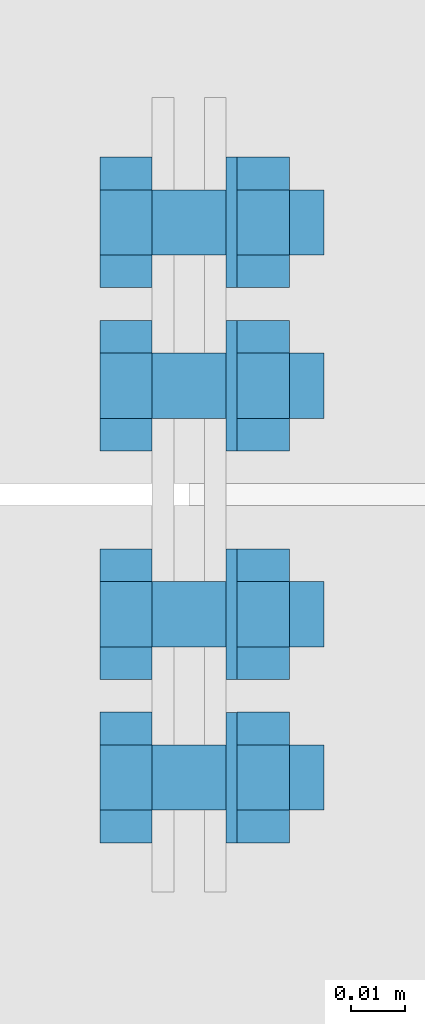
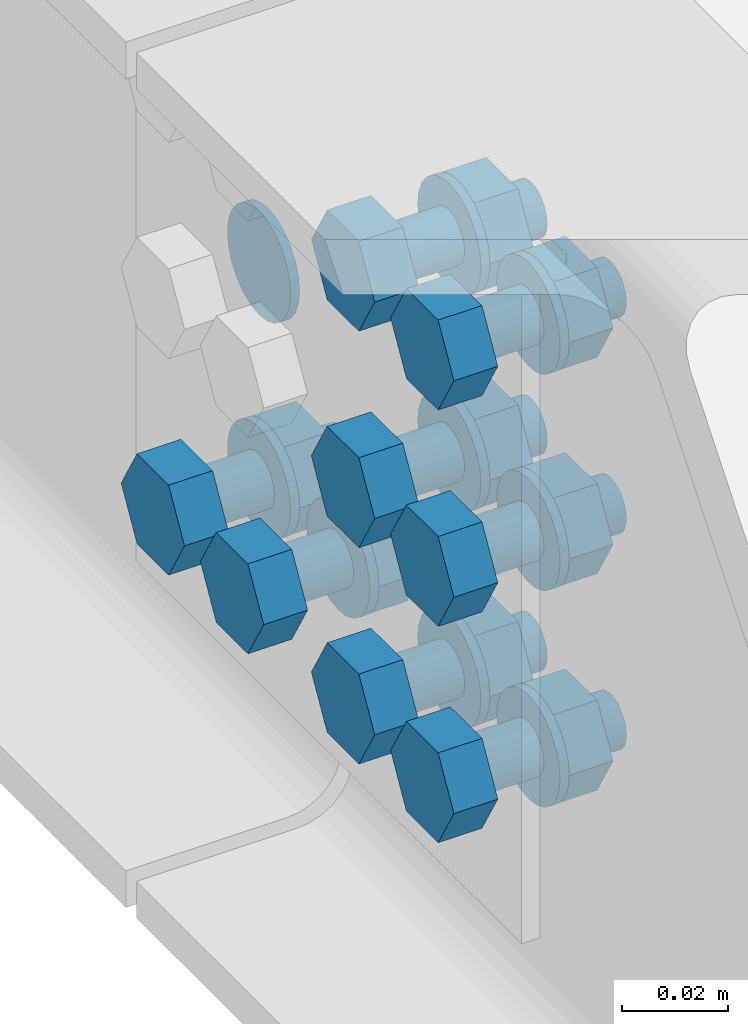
# One storey, part 73 of 84: 33 mechanical fasteners.
"""IFC4 building model written with IfcOpenShell, lengths in metres."""

from ifc_helpers import new_model, si_unit, frame, origin_with_axes, place, context, project, spatial, polyline, outline, extrude, type_object, element, save


model = new_model("IFC4")

# Units and contexts
model_context = context("Model", 3, precision=1e-05, world=origin_with_axes())
ifc_project = project(units=[si_unit("LENGTHUNIT", "METRE"), si_unit("AREAUNIT", "SQUARE_METRE"), si_unit("VOLUMEUNIT", "CUBIC_METRE"), si_unit("MASSUNIT", "GRAM", prefix="KILO"), si_unit("TIMEUNIT", "SECOND"), si_unit("PLANEANGLEUNIT", "RADIAN"), si_unit("SOLIDANGLEUNIT", "STERADIAN"), si_unit("THERMODYNAMICTEMPERATUREUNIT", "DEGREE_CELSIUS")], contexts=[model_context])

# Site, building, storey
placement_1 = place(None, origin_with_axes())
site = spatial("IfcSite", under=ifc_project, at=placement_1, Name="Italia", CompositionType="ELEMENT")
building = spatial("IfcBuilding", under=site, at=placement_1, Name="Tettoia", CompositionType="ELEMENT")
storey_placement = place(None, frame((0.0, 0.0, 4.199999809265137), z_axis=(0.0, 0.0, 1.0), x_axis=(1.0, 0.0, 0.0)))
storey = spatial("IfcBuildingStorey", under=building, at=storey_placement, Name="Storey 1", CompositionType="ELEMENT", Elevation=4.199999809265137)

# Mechanical fasteners
mechanical_fastener_type_1 = type_object("IfcMechanicalFastenerType", Name="Collegamento 0122_0114", PredefinedType="BOLT")
placement_2 = place(placement_1, origin_with_axes())
mechanical_fastener_1_placement = place(placement_2, origin_with_axes())
element("IfcMechanicalFastener", 1, at=mechanical_fastener_1_placement, inside=storey, type_object=mechanical_fastener_type_1, Name="Collegamento 0122_0114", NominalDiameter=0.024, context=model_context, shape_type="SweptSolid", body=[
    extrude(outline(polyline([(0.0, 0.0), (-0.000408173, -0.00310564), (-0.00160599, -0.00600004), (-0.00351334, -0.00848532), (-0.00599861, -0.0103922), (-0.00889397, -0.011591), (-0.0119991, -0.0120001), (-0.0151043, -0.011591), (-0.0179996, -0.0103922), (-0.0204849, -0.00848532), (-0.0223923, -0.00600004), (-0.0235901, -0.00310564), (-0.0239983, 0.0), (-0.0235901, 0.00310564), (-0.0223923, 0.00600004), (-0.0204849, 0.00848532), (-0.0179996, 0.0103922), (-0.0151043, 0.011591), (-0.0119991, 0.0120001), (-0.00889397, 0.011591), (-0.00599861, 0.0103922), (-0.00351334, 0.00848532), (-0.00160599, 0.00600004), (-0.000408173, 0.00310564), (0.0, 0.0)])), frame((0.1088, 16.925, 4.3), z_axis=(-1.0, 0.0, 0.0), x_axis=(0.0, -1.0, 0.0)), (0.0, 0.0, 1.0), 0.002),
])
mechanical_fastener_type_2 = type_object("IfcMechanicalFastenerType", Name="Collegamento 0122_0114", PredefinedType="BOLT")
mechanical_fastener_2_placement = place(placement_2, origin_with_axes())
element("IfcMechanicalFastener", 2, at=mechanical_fastener_2_placement, inside=storey, type_object=mechanical_fastener_type_2, Name="Collegamento 0122_0114", NominalDiameter=0.0119991, context=model_context, shape_type="SweptSolid", body=[
    extrude(outline(polyline([(0.0, 0.0), (0.0119991, 0.0), (0.0179996, -0.0103927), (0.0119991, -0.0207849), (0.0, -0.0207849), (-0.00600052, -0.0103927), (0.0, 0.0)])), frame((0.0932, 16.913, 4.26039), z_axis=(-1.0, 0.0, 0.0), x_axis=(0.0, -1.0, 0.0)), (0.0, 0.0, 1.0), 0.0096),
])
mechanical_fastener_type_3 = type_object("IfcMechanicalFastenerType", Name="Collegamento 0122_0114", PredefinedType="BOLT")
mechanical_fastener_3_placement = place(placement_2, origin_with_axes())
element("IfcMechanicalFastener", 3, at=mechanical_fastener_3_placement, inside=storey, type_object=mechanical_fastener_type_3, Name="Collegamento 0122_0114", NominalDiameter=0.012, context=model_context, shape_type="SweptSolid", body=[
    extrude(outline(polyline([(0.0, 0.0), (-0.000204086, -0.00155306), (-0.000804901, -0.00299978), (-0.00175858, -0.00424242), (-0.00300026, -0.00519609), (-0.00444794, -0.00579548), (-0.00600052, -0.00600004), (-0.0075531, -0.00579548), (-0.00900078, -0.00519609), (-0.0102425, -0.00424242), (-0.0111961, -0.00299978), (-0.011797, -0.00155306), (-0.012001, 0.0), (-0.011797, 0.00155306), (-0.0111961, 0.00299978), (-0.0102425, 0.00424242), (-0.00900078, 0.00519609), (-0.0075531, 0.00579548), (-0.00600052, 0.00600004), (-0.00444794, 0.00579548), (-0.00300026, 0.00519609), (-0.00175858, 0.00424242), (-0.000804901, 0.00299978), (-0.000204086, 0.00155306), (0.0, 0.0)])), frame((0.1248, 16.901, 4.25), z_axis=(-1.0, 0.0, 0.0), x_axis=(0.0, -1.0, 0.0)), (0.0, 0.0, 1.0), 0.0316),
])
mechanical_fastener_type_4 = type_object("IfcMechanicalFastenerType", Name="Collegamento 0122_0114", PredefinedType="BOLT")
mechanical_fastener_4_placement = place(placement_2, origin_with_axes())
element("IfcMechanicalFastener", 4, at=mechanical_fastener_4_placement, inside=storey, type_object=mechanical_fastener_type_4, Name="Collegamento 0122_0114", NominalDiameter=0.0119991, context=model_context, shape_type="SweptSolid", body=[
    extrude(outline(polyline([(0.0, 0.0), (0.0119991, 0.0), (0.0179996, -0.0103927), (0.0119991, -0.0207849), (0.0, -0.0207849), (-0.00600052, -0.0103927), (0.0, 0.0)])), frame((0.1184, 16.913, 4.26039), z_axis=(-1.0, 0.0, 0.0), x_axis=(0.0, -1.0, 0.0)), (0.0, 0.0, 1.0), 0.00960001),
])
mechanical_fastener_type_5 = type_object("IfcMechanicalFastenerType", Name="Collegamento 0122_0114", PredefinedType="BOLT")
mechanical_fastener_5_placement = place(placement_2, origin_with_axes())
element("IfcMechanicalFastener", 5, at=mechanical_fastener_5_placement, inside=storey, type_object=mechanical_fastener_type_5, Name="Collegamento 0122_0114", NominalDiameter=0.024, context=model_context, shape_type="SweptSolid", body=[
    extrude(outline(polyline([(0.0, 0.0), (-0.000408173, -0.00310564), (-0.00160599, -0.00600004), (-0.00351334, -0.00848532), (-0.00599861, -0.0103922), (-0.00889397, -0.011591), (-0.0119991, -0.0120001), (-0.0151043, -0.011591), (-0.0179996, -0.0103922), (-0.0204849, -0.00848532), (-0.0223923, -0.00600004), (-0.0235901, -0.00310564), (-0.0239983, 0.0), (-0.0235901, 0.00310564), (-0.0223923, 0.00600004), (-0.0204849, 0.00848532), (-0.0179996, 0.0103922), (-0.0151043, 0.011591), (-0.0119991, 0.0120001), (-0.00889397, 0.011591), (-0.00599861, 0.0103922), (-0.00351334, 0.00848532), (-0.00160599, 0.00600004), (-0.000408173, 0.00310564), (0.0, 0.0)])), frame((0.1088, 16.895, 4.25), z_axis=(-1.0, 0.0, 0.0), x_axis=(0.0, -1.0, 0.0)), (0.0, 0.0, 1.0), 0.002),
])
mechanical_fastener_type_6 = type_object("IfcMechanicalFastenerType", Name="Collegamento 0122_0114", PredefinedType="BOLT")
mechanical_fastener_6_placement = place(placement_2, origin_with_axes())
element("IfcMechanicalFastener", 6, at=mechanical_fastener_6_placement, inside=storey, type_object=mechanical_fastener_type_6, Name="Collegamento 0122_0114", NominalDiameter=0.0119992, context=model_context, shape_type="SweptSolid", body=[
    extrude(outline(polyline([(0.0, 0.0), (0.012001, 0.0), (0.0179996, -0.0103927), (0.012001, -0.0207849), (0.0, -0.0207849), (-0.00599861, -0.0103927), (0.0, 0.0)])), frame((0.0932, 16.943, 4.26039), z_axis=(-1.0, 0.0, 0.0), x_axis=(0.0, -1.0, 0.0)), (0.0, 0.0, 1.0), 0.0096),
])
mechanical_fastener_type_7 = type_object("IfcMechanicalFastenerType", Name="Collegamento 0122_0114", PredefinedType="BOLT")
mechanical_fastener_7_placement = place(placement_2, origin_with_axes())
element("IfcMechanicalFastener", 7, at=mechanical_fastener_7_placement, inside=storey, type_object=mechanical_fastener_type_7, Name="Collegamento 0122_0114", NominalDiameter=0.012, context=model_context, shape_type="SweptSolid", body=[
    extrude(outline(polyline([(0.0, 0.0), (-0.000204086, -0.00155306), (-0.000804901, -0.00299978), (-0.00175858, -0.00424242), (-0.00300026, -0.00519609), (-0.00444794, -0.00579548), (-0.00600052, -0.00600004), (-0.0075531, -0.00579548), (-0.00900078, -0.00519609), (-0.0102425, -0.00424242), (-0.0111961, -0.00299978), (-0.011797, -0.00155306), (-0.012001, 0.0), (-0.011797, 0.00155306), (-0.0111961, 0.00299978), (-0.0102425, 0.00424242), (-0.00900078, 0.00519609), (-0.0075531, 0.00579548), (-0.00600052, 0.00600004), (-0.00444794, 0.00579548), (-0.00300026, 0.00519609), (-0.00175858, 0.00424242), (-0.000804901, 0.00299978), (-0.000204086, 0.00155306), (0.0, 0.0)])), frame((0.1248, 16.931, 4.25), z_axis=(-1.0, 0.0, 0.0), x_axis=(0.0, -1.0, 0.0)), (0.0, 0.0, 1.0), 0.0316),
])
mechanical_fastener_type_8 = type_object("IfcMechanicalFastenerType", Name="Collegamento 0122_0114", PredefinedType="BOLT")
mechanical_fastener_8_placement = place(placement_2, origin_with_axes())
element("IfcMechanicalFastener", 8, at=mechanical_fastener_8_placement, inside=storey, type_object=mechanical_fastener_type_8, Name="Collegamento 0122_0114", NominalDiameter=0.0119992, context=model_context, shape_type="SweptSolid", body=[
    extrude(outline(polyline([(0.0, 0.0), (0.012001, 0.0), (0.0179996, -0.0103927), (0.012001, -0.0207849), (0.0, -0.0207849), (-0.00599861, -0.0103927), (0.0, 0.0)])), frame((0.1184, 16.943, 4.26039), z_axis=(-1.0, 0.0, 0.0), x_axis=(0.0, -1.0, 0.0)), (0.0, 0.0, 1.0), 0.00960001),
])
mechanical_fastener_type_9 = type_object("IfcMechanicalFastenerType", Name="Collegamento 0122_0114", PredefinedType="BOLT")
mechanical_fastener_9_placement = place(placement_2, origin_with_axes())
element("IfcMechanicalFastener", 9, at=mechanical_fastener_9_placement, inside=storey, type_object=mechanical_fastener_type_9, Name="Collegamento 0122_0114", NominalDiameter=0.024, context=model_context, shape_type="SweptSolid", body=[
    extrude(outline(polyline([(0.0, 0.0), (-0.000408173, -0.00310564), (-0.00160599, -0.00600004), (-0.00351334, -0.00848532), (-0.00599861, -0.0103922), (-0.00889397, -0.011591), (-0.0119991, -0.0120001), (-0.0151043, -0.011591), (-0.0179996, -0.0103922), (-0.0204849, -0.00848532), (-0.0223923, -0.00600004), (-0.0235901, -0.00310564), (-0.0239983, 0.0), (-0.0235901, 0.00310564), (-0.0223923, 0.00600004), (-0.0204849, 0.00848532), (-0.0179996, 0.0103922), (-0.0151043, 0.011591), (-0.0119991, 0.0120001), (-0.00889397, 0.011591), (-0.00599861, 0.0103922), (-0.00351334, 0.00848532), (-0.00160599, 0.00600004), (-0.000408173, 0.00310564), (0.0, 0.0)])), frame((0.1088, 16.925, 4.25), z_axis=(-1.0, 0.0, 0.0), x_axis=(0.0, -1.0, 0.0)), (0.0, 0.0, 1.0), 0.002),
])
mechanical_fastener_type_10 = type_object("IfcMechanicalFastenerType", Name="Collegamento 0122_0114", PredefinedType="BOLT")
mechanical_fastener_10_placement = place(placement_2, origin_with_axes())
element("IfcMechanicalFastener", 10, at=mechanical_fastener_10_placement, inside=storey, type_object=mechanical_fastener_type_10, Name="Collegamento 0122_0114", NominalDiameter=0.0119991, context=model_context, shape_type="SweptSolid", body=[
    extrude(outline(polyline([(0.0, 0.0), (0.0119991, 0.0), (0.0179996, -0.0103922), (0.0119991, -0.0207849), (0.0, -0.0207849), (-0.00600052, -0.0103922), (0.0, 0.0)])), frame((0.0932, 16.871, 4.36039), z_axis=(-1.0, 0.0, 0.0), x_axis=(0.0, -1.0, 0.0)), (0.0, 0.0, 1.0), 0.0096),
])
mechanical_fastener_type_11 = type_object("IfcMechanicalFastenerType", Name="Collegamento 0122_0114", PredefinedType="BOLT")
mechanical_fastener_11_placement = place(placement_2, origin_with_axes())
element("IfcMechanicalFastener", 11, at=mechanical_fastener_11_placement, inside=storey, type_object=mechanical_fastener_type_11, Name="Collegamento 0122_0114", NominalDiameter=0.012, context=model_context, shape_type="SweptSolid", body=[
    extrude(outline(polyline([(0.0, 0.0), (-0.000204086, -0.00155306), (-0.000804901, -0.00299978), (-0.00175858, -0.00424242), (-0.00300026, -0.00519609), (-0.00444794, -0.00579548), (-0.00600052, -0.00600004), (-0.0075531, -0.00579548), (-0.00900078, -0.00519609), (-0.0102425, -0.00424242), (-0.0111961, -0.00299978), (-0.011797, -0.00155306), (-0.012001, 0.0), (-0.011797, 0.00155306), (-0.0111961, 0.00299978), (-0.0102425, 0.00424242), (-0.00900078, 0.00519609), (-0.0075531, 0.00579548), (-0.00600052, 0.00600004), (-0.00444794, 0.00579548), (-0.00300026, 0.00519609), (-0.00175858, 0.00424242), (-0.000804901, 0.00299978), (-0.000204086, 0.00155306), (0.0, 0.0)])), frame((0.1248, 16.859, 4.35), z_axis=(-1.0, 0.0, 0.0), x_axis=(0.0, -1.0, 0.0)), (0.0, 0.0, 1.0), 0.0316),
])
mechanical_fastener_type_12 = type_object("IfcMechanicalFastenerType", Name="Collegamento 0122_0114", PredefinedType="BOLT")
mechanical_fastener_12_placement = place(placement_2, origin_with_axes())
element("IfcMechanicalFastener", 12, at=mechanical_fastener_12_placement, inside=storey, type_object=mechanical_fastener_type_12, Name="Collegamento 0122_0114", NominalDiameter=0.0119991, context=model_context, shape_type="SweptSolid", body=[
    extrude(outline(polyline([(0.0, 0.0), (0.0119991, 0.0), (0.0179996, -0.0103922), (0.0119991, -0.0207849), (0.0, -0.0207849), (-0.00600052, -0.0103922), (0.0, 0.0)])), frame((0.1184, 16.871, 4.36039), z_axis=(-1.0, 0.0, 0.0), x_axis=(0.0, -1.0, 0.0)), (0.0, 0.0, 1.0), 0.00960001),
])
mechanical_fastener_type_13 = type_object("IfcMechanicalFastenerType", Name="Collegamento 0122_0114", PredefinedType="BOLT")
mechanical_fastener_13_placement = place(placement_2, origin_with_axes())
element("IfcMechanicalFastener", 13, at=mechanical_fastener_13_placement, inside=storey, type_object=mechanical_fastener_type_13, Name="Collegamento 0122_0114", NominalDiameter=0.024, context=model_context, shape_type="SweptSolid", body=[
    extrude(outline(polyline([(0.0, 0.0), (-0.000408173, -0.00310564), (-0.00160599, -0.00600004), (-0.00351334, -0.00848532), (-0.00599861, -0.0103922), (-0.00889397, -0.011591), (-0.0119991, -0.0120001), (-0.0151043, -0.011591), (-0.0179996, -0.0103922), (-0.0204849, -0.00848532), (-0.0223923, -0.00600004), (-0.0235901, -0.00310564), (-0.0239983, 0.0), (-0.0235901, 0.00310564), (-0.0223923, 0.00600004), (-0.0204849, 0.00848532), (-0.0179996, 0.0103922), (-0.0151043, 0.011591), (-0.0119991, 0.0120001), (-0.00889397, 0.011591), (-0.00599861, 0.0103922), (-0.00351334, 0.00848532), (-0.00160599, 0.00600004), (-0.000408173, 0.00310564), (0.0, 0.0)])), frame((0.1088, 16.853, 4.35), z_axis=(-1.0, 0.0, 0.0), x_axis=(0.0, -1.0, 0.0)), (0.0, 0.0, 1.0), 0.002),
])
mechanical_fastener_type_14 = type_object("IfcMechanicalFastenerType", Name="Collegamento 0122_0114", PredefinedType="BOLT")
mechanical_fastener_14_placement = place(placement_2, origin_with_axes())
element("IfcMechanicalFastener", 14, at=mechanical_fastener_14_placement, inside=storey, type_object=mechanical_fastener_type_14, Name="Collegamento 0122_0114", NominalDiameter=0.0119991, context=model_context, shape_type="SweptSolid", body=[
    extrude(outline(polyline([(0.0, 0.0), (0.0119991, 0.0), (0.0179996, -0.0103922), (0.0119991, -0.0207849), (0.0, -0.0207849), (-0.00600052, -0.0103922), (0.0, 0.0)])), frame((0.0932, 16.841, 4.36039), z_axis=(-1.0, 0.0, 0.0), x_axis=(0.0, -1.0, 0.0)), (0.0, 0.0, 1.0), 0.0096),
])
mechanical_fastener_type_15 = type_object("IfcMechanicalFastenerType", Name="Collegamento 0122_0114", PredefinedType="BOLT")
mechanical_fastener_15_placement = place(placement_2, origin_with_axes())
element("IfcMechanicalFastener", 15, at=mechanical_fastener_15_placement, inside=storey, type_object=mechanical_fastener_type_15, Name="Collegamento 0122_0114", NominalDiameter=0.012, context=model_context, shape_type="SweptSolid", body=[
    extrude(outline(polyline([(0.0, 0.0), (-0.000204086, -0.00155306), (-0.000804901, -0.00299978), (-0.00175858, -0.00424242), (-0.00300026, -0.00519609), (-0.00444794, -0.00579548), (-0.00600052, -0.00600004), (-0.0075531, -0.00579548), (-0.00900078, -0.00519609), (-0.0102425, -0.00424242), (-0.0111961, -0.00299978), (-0.011797, -0.00155306), (-0.012001, 0.0), (-0.011797, 0.00155306), (-0.0111961, 0.00299978), (-0.0102425, 0.00424242), (-0.00900078, 0.00519609), (-0.0075531, 0.00579548), (-0.00600052, 0.00600004), (-0.00444794, 0.00579548), (-0.00300026, 0.00519609), (-0.00175858, 0.00424242), (-0.000804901, 0.00299978), (-0.000204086, 0.00155306), (0.0, 0.0)])), frame((0.1248, 16.829, 4.35), z_axis=(-1.0, 0.0, 0.0), x_axis=(0.0, -1.0, 0.0)), (0.0, 0.0, 1.0), 0.0316),
])
mechanical_fastener_type_16 = type_object("IfcMechanicalFastenerType", Name="Collegamento 0122_0114", PredefinedType="BOLT")
mechanical_fastener_16_placement = place(placement_2, origin_with_axes())
element("IfcMechanicalFastener", 16, at=mechanical_fastener_16_placement, inside=storey, type_object=mechanical_fastener_type_16, Name="Collegamento 0122_0114", NominalDiameter=0.0119991, context=model_context, shape_type="SweptSolid", body=[
    extrude(outline(polyline([(0.0, 0.0), (0.0119991, 0.0), (0.0179996, -0.0103922), (0.0119991, -0.0207849), (0.0, -0.0207849), (-0.00600052, -0.0103922), (0.0, 0.0)])), frame((0.1184, 16.841, 4.36039), z_axis=(-1.0, 0.0, 0.0), x_axis=(0.0, -1.0, 0.0)), (0.0, 0.0, 1.0), 0.00960001),
])
mechanical_fastener_type_17 = type_object("IfcMechanicalFastenerType", Name="Collegamento 0122_0114", PredefinedType="BOLT")
mechanical_fastener_17_placement = place(placement_2, origin_with_axes())
element("IfcMechanicalFastener", 17, at=mechanical_fastener_17_placement, inside=storey, type_object=mechanical_fastener_type_17, Name="Collegamento 0122_0114", NominalDiameter=0.024, context=model_context, shape_type="SweptSolid", body=[
    extrude(outline(polyline([(0.0, 0.0), (-0.000408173, -0.00310564), (-0.00160599, -0.00600004), (-0.00351334, -0.00848532), (-0.00599861, -0.0103922), (-0.00889397, -0.011591), (-0.0119991, -0.0120001), (-0.0151043, -0.011591), (-0.0179996, -0.0103922), (-0.0204849, -0.00848532), (-0.0223923, -0.00600004), (-0.0235901, -0.00310564), (-0.0239983, 0.0), (-0.0235901, 0.00310564), (-0.0223923, 0.00600004), (-0.0204849, 0.00848532), (-0.0179996, 0.0103922), (-0.0151043, 0.011591), (-0.0119991, 0.0120001), (-0.00889397, 0.011591), (-0.00599861, 0.0103922), (-0.00351334, 0.00848532), (-0.00160599, 0.00600004), (-0.000408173, 0.00310564), (0.0, 0.0)])), frame((0.1088, 16.823, 4.35), z_axis=(-1.0, 0.0, 0.0), x_axis=(0.0, -1.0, 0.0)), (0.0, 0.0, 1.0), 0.002),
])
mechanical_fastener_type_18 = type_object("IfcMechanicalFastenerType", Name="Collegamento 0122_0114", PredefinedType="BOLT")
mechanical_fastener_18_placement = place(placement_2, origin_with_axes())
element("IfcMechanicalFastener", 18, at=mechanical_fastener_18_placement, inside=storey, type_object=mechanical_fastener_type_18, Name="Collegamento 0122_0114", NominalDiameter=0.0119991, context=model_context, shape_type="SweptSolid", body=[
    extrude(outline(polyline([(0.0, 0.0), (0.0119991, 0.0), (0.0179996, -0.0103922), (0.0119991, -0.0207844), (0.0, -0.0207844), (-0.00600052, -0.0103922), (0.0, 0.0)])), frame((0.0932, 16.871, 4.31039), z_axis=(-1.0, 0.0, 0.0), x_axis=(0.0, -1.0, 0.0)), (0.0, 0.0, 1.0), 0.0096),
])
mechanical_fastener_type_19 = type_object("IfcMechanicalFastenerType", Name="Collegamento 0122_0114", PredefinedType="BOLT")
mechanical_fastener_19_placement = place(placement_2, origin_with_axes())
element("IfcMechanicalFastener", 19, at=mechanical_fastener_19_placement, inside=storey, type_object=mechanical_fastener_type_19, Name="Collegamento 0122_0114", NominalDiameter=0.012, context=model_context, shape_type="SweptSolid", body=[
    extrude(outline(polyline([(0.0, 0.0), (-0.000204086, -0.00155306), (-0.000804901, -0.00299978), (-0.00175858, -0.00424242), (-0.00300026, -0.00519609), (-0.00444794, -0.00579548), (-0.00600052, -0.00600004), (-0.0075531, -0.00579548), (-0.00900078, -0.00519609), (-0.0102425, -0.00424242), (-0.0111961, -0.00299978), (-0.011797, -0.00155306), (-0.012001, 0.0), (-0.011797, 0.00155306), (-0.0111961, 0.00299978), (-0.0102425, 0.00424242), (-0.00900078, 0.00519609), (-0.0075531, 0.00579548), (-0.00600052, 0.00600004), (-0.00444794, 0.00579548), (-0.00300026, 0.00519609), (-0.00175858, 0.00424242), (-0.000804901, 0.00299978), (-0.000204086, 0.00155306), (0.0, 0.0)])), frame((0.1248, 16.859, 4.3), z_axis=(-1.0, 0.0, 0.0), x_axis=(0.0, -1.0, 0.0)), (0.0, 0.0, 1.0), 0.0316),
])
mechanical_fastener_type_20 = type_object("IfcMechanicalFastenerType", Name="Collegamento 0122_0114", PredefinedType="BOLT")
mechanical_fastener_20_placement = place(placement_2, origin_with_axes())
element("IfcMechanicalFastener", 20, at=mechanical_fastener_20_placement, inside=storey, type_object=mechanical_fastener_type_20, Name="Collegamento 0122_0114", NominalDiameter=0.0119991, context=model_context, shape_type="SweptSolid", body=[
    extrude(outline(polyline([(0.0, 0.0), (0.0119991, 0.0), (0.0179996, -0.0103922), (0.0119991, -0.0207844), (0.0, -0.0207844), (-0.00600052, -0.0103922), (0.0, 0.0)])), frame((0.1184, 16.871, 4.31039), z_axis=(-1.0, 0.0, 0.0), x_axis=(0.0, -1.0, 0.0)), (0.0, 0.0, 1.0), 0.00960001),
])
mechanical_fastener_type_21 = type_object("IfcMechanicalFastenerType", Name="Collegamento 0122_0114", PredefinedType="BOLT")
mechanical_fastener_21_placement = place(placement_2, origin_with_axes())
element("IfcMechanicalFastener", 21, at=mechanical_fastener_21_placement, inside=storey, type_object=mechanical_fastener_type_21, Name="Collegamento 0122_0114", NominalDiameter=0.024, context=model_context, shape_type="SweptSolid", body=[
    extrude(outline(polyline([(0.0, 0.0), (-0.000408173, -0.00310564), (-0.00160599, -0.00600004), (-0.00351334, -0.00848532), (-0.00599861, -0.0103922), (-0.00889397, -0.011591), (-0.0119991, -0.0120001), (-0.0151043, -0.011591), (-0.0179996, -0.0103922), (-0.0204849, -0.00848532), (-0.0223923, -0.00600004), (-0.0235901, -0.00310564), (-0.0239983, 0.0), (-0.0235901, 0.00310564), (-0.0223923, 0.00600004), (-0.0204849, 0.00848532), (-0.0179996, 0.0103922), (-0.0151043, 0.011591), (-0.0119991, 0.0120001), (-0.00889397, 0.011591), (-0.00599861, 0.0103922), (-0.00351334, 0.00848532), (-0.00160599, 0.00600004), (-0.000408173, 0.00310564), (0.0, 0.0)])), frame((0.1088, 16.853, 4.3), z_axis=(-1.0, 0.0, 0.0), x_axis=(0.0, -1.0, 0.0)), (0.0, 0.0, 1.0), 0.002),
])
mechanical_fastener_type_22 = type_object("IfcMechanicalFastenerType", Name="Collegamento 0122_0114", PredefinedType="BOLT")
mechanical_fastener_22_placement = place(placement_2, origin_with_axes())
element("IfcMechanicalFastener", 22, at=mechanical_fastener_22_placement, inside=storey, type_object=mechanical_fastener_type_22, Name="Collegamento 0122_0114", NominalDiameter=0.0119991, context=model_context, shape_type="SweptSolid", body=[
    extrude(outline(polyline([(0.0, 0.0), (0.0119991, 0.0), (0.0179996, -0.0103922), (0.0119991, -0.0207844), (0.0, -0.0207844), (-0.00600052, -0.0103922), (0.0, 0.0)])), frame((0.0932, 16.841, 4.31039), z_axis=(-1.0, 0.0, 0.0), x_axis=(0.0, -1.0, 0.0)), (0.0, 0.0, 1.0), 0.0096),
])
mechanical_fastener_type_23 = type_object("IfcMechanicalFastenerType", Name="Collegamento 0122_0114", PredefinedType="BOLT")
mechanical_fastener_23_placement = place(placement_2, origin_with_axes())
element("IfcMechanicalFastener", 23, at=mechanical_fastener_23_placement, inside=storey, type_object=mechanical_fastener_type_23, Name="Collegamento 0122_0114", NominalDiameter=0.012, context=model_context, shape_type="SweptSolid", body=[
    extrude(outline(polyline([(0.0, 0.0), (-0.000204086, -0.00155306), (-0.000804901, -0.00299978), (-0.00175858, -0.00424242), (-0.00300026, -0.00519609), (-0.00444794, -0.00579548), (-0.00600052, -0.00600004), (-0.0075531, -0.00579548), (-0.00900078, -0.00519609), (-0.0102425, -0.00424242), (-0.0111961, -0.00299978), (-0.011797, -0.00155306), (-0.012001, 0.0), (-0.011797, 0.00155306), (-0.0111961, 0.00299978), (-0.0102425, 0.00424242), (-0.00900078, 0.00519609), (-0.0075531, 0.00579548), (-0.00600052, 0.00600004), (-0.00444794, 0.00579548), (-0.00300026, 0.00519609), (-0.00175858, 0.00424242), (-0.000804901, 0.00299978), (-0.000204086, 0.00155306), (0.0, 0.0)])), frame((0.1248, 16.829, 4.3), z_axis=(-1.0, 0.0, 0.0), x_axis=(0.0, -1.0, 0.0)), (0.0, 0.0, 1.0), 0.0316),
])
mechanical_fastener_type_24 = type_object("IfcMechanicalFastenerType", Name="Collegamento 0122_0114", PredefinedType="BOLT")
mechanical_fastener_24_placement = place(placement_2, origin_with_axes())
element("IfcMechanicalFastener", 24, at=mechanical_fastener_24_placement, inside=storey, type_object=mechanical_fastener_type_24, Name="Collegamento 0122_0114", NominalDiameter=0.0119991, context=model_context, shape_type="SweptSolid", body=[
    extrude(outline(polyline([(0.0, 0.0), (0.0119991, 0.0), (0.0179996, -0.0103922), (0.0119991, -0.0207844), (0.0, -0.0207844), (-0.00600052, -0.0103922), (0.0, 0.0)])), frame((0.1184, 16.841, 4.31039), z_axis=(-1.0, 0.0, 0.0), x_axis=(0.0, -1.0, 0.0)), (0.0, 0.0, 1.0), 0.00960001),
])
mechanical_fastener_type_25 = type_object("IfcMechanicalFastenerType", Name="Collegamento 0122_0114", PredefinedType="BOLT")
mechanical_fastener_25_placement = place(placement_2, origin_with_axes())
element("IfcMechanicalFastener", 25, at=mechanical_fastener_25_placement, inside=storey, type_object=mechanical_fastener_type_25, Name="Collegamento 0122_0114", NominalDiameter=0.024, context=model_context, shape_type="SweptSolid", body=[
    extrude(outline(polyline([(0.0, 0.0), (-0.000408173, -0.00310564), (-0.00160599, -0.00600004), (-0.00351334, -0.00848532), (-0.00599861, -0.0103922), (-0.00889397, -0.011591), (-0.0119991, -0.0120001), (-0.0151043, -0.011591), (-0.0179996, -0.0103922), (-0.0204849, -0.00848532), (-0.0223923, -0.00600004), (-0.0235901, -0.00310564), (-0.0239983, 0.0), (-0.0235901, 0.00310564), (-0.0223923, 0.00600004), (-0.0204849, 0.00848532), (-0.0179996, 0.0103922), (-0.0151043, 0.011591), (-0.0119991, 0.0120001), (-0.00889397, 0.011591), (-0.00599861, 0.0103922), (-0.00351334, 0.00848532), (-0.00160599, 0.00600004), (-0.000408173, 0.00310564), (0.0, 0.0)])), frame((0.1088, 16.823, 4.3), z_axis=(-1.0, 0.0, 0.0), x_axis=(0.0, -1.0, 0.0)), (0.0, 0.0, 1.0), 0.002),
])
mechanical_fastener_type_26 = type_object("IfcMechanicalFastenerType", Name="Collegamento 0122_0114", PredefinedType="BOLT")
mechanical_fastener_26_placement = place(placement_2, origin_with_axes())
element("IfcMechanicalFastener", 26, at=mechanical_fastener_26_placement, inside=storey, type_object=mechanical_fastener_type_26, Name="Collegamento 0122_0114", NominalDiameter=0.0119991, context=model_context, shape_type="SweptSolid", body=[
    extrude(outline(polyline([(0.0, 0.0), (0.0119991, 0.0), (0.0179996, -0.0103927), (0.0119991, -0.0207849), (0.0, -0.0207849), (-0.00600052, -0.0103927), (0.0, 0.0)])), frame((0.0932, 16.871, 4.26039), z_axis=(-1.0, 0.0, 0.0), x_axis=(0.0, -1.0, 0.0)), (0.0, 0.0, 1.0), 0.0096),
])
mechanical_fastener_type_27 = type_object("IfcMechanicalFastenerType", Name="Collegamento 0122_0114", PredefinedType="BOLT")
mechanical_fastener_27_placement = place(placement_2, origin_with_axes())
element("IfcMechanicalFastener", 27, at=mechanical_fastener_27_placement, inside=storey, type_object=mechanical_fastener_type_27, Name="Collegamento 0122_0114", NominalDiameter=0.012, context=model_context, shape_type="SweptSolid", body=[
    extrude(outline(polyline([(0.0, 0.0), (-0.000204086, -0.00155306), (-0.000804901, -0.00299978), (-0.00175858, -0.00424242), (-0.00300026, -0.00519609), (-0.00444794, -0.00579548), (-0.00600052, -0.00600004), (-0.0075531, -0.00579548), (-0.00900078, -0.00519609), (-0.0102425, -0.00424242), (-0.0111961, -0.00299978), (-0.011797, -0.00155306), (-0.012001, 0.0), (-0.011797, 0.00155306), (-0.0111961, 0.00299978), (-0.0102425, 0.00424242), (-0.00900078, 0.00519609), (-0.0075531, 0.00579548), (-0.00600052, 0.00600004), (-0.00444794, 0.00579548), (-0.00300026, 0.00519609), (-0.00175858, 0.00424242), (-0.000804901, 0.00299978), (-0.000204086, 0.00155306), (0.0, 0.0)])), frame((0.1248, 16.859, 4.25), z_axis=(-1.0, 0.0, 0.0), x_axis=(0.0, -1.0, 0.0)), (0.0, 0.0, 1.0), 0.0316),
])
mechanical_fastener_type_28 = type_object("IfcMechanicalFastenerType", Name="Collegamento 0122_0114", PredefinedType="BOLT")
mechanical_fastener_28_placement = place(placement_2, origin_with_axes())
element("IfcMechanicalFastener", 28, at=mechanical_fastener_28_placement, inside=storey, type_object=mechanical_fastener_type_28, Name="Collegamento 0122_0114", NominalDiameter=0.0119991, context=model_context, shape_type="SweptSolid", body=[
    extrude(outline(polyline([(0.0, 0.0), (0.0119991, 0.0), (0.0179996, -0.0103927), (0.0119991, -0.0207849), (0.0, -0.0207849), (-0.00600052, -0.0103927), (0.0, 0.0)])), frame((0.1184, 16.871, 4.26039), z_axis=(-1.0, 0.0, 0.0), x_axis=(0.0, -1.0, 0.0)), (0.0, 0.0, 1.0), 0.00960001),
])
mechanical_fastener_type_29 = type_object("IfcMechanicalFastenerType", Name="Collegamento 0122_0114", PredefinedType="BOLT")
mechanical_fastener_29_placement = place(placement_2, origin_with_axes())
element("IfcMechanicalFastener", 29, at=mechanical_fastener_29_placement, inside=storey, type_object=mechanical_fastener_type_29, Name="Collegamento 0122_0114", NominalDiameter=0.024, context=model_context, shape_type="SweptSolid", body=[
    extrude(outline(polyline([(0.0, 0.0), (-0.000408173, -0.00310564), (-0.00160599, -0.00600004), (-0.00351334, -0.00848532), (-0.00599861, -0.0103922), (-0.00889397, -0.011591), (-0.0119991, -0.0120001), (-0.0151043, -0.011591), (-0.0179996, -0.0103922), (-0.0204849, -0.00848532), (-0.0223923, -0.00600004), (-0.0235901, -0.00310564), (-0.0239983, 0.0), (-0.0235901, 0.00310564), (-0.0223923, 0.00600004), (-0.0204849, 0.00848532), (-0.0179996, 0.0103922), (-0.0151043, 0.011591), (-0.0119991, 0.0120001), (-0.00889397, 0.011591), (-0.00599861, 0.0103922), (-0.00351334, 0.00848532), (-0.00160599, 0.00600004), (-0.000408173, 0.00310564), (0.0, 0.0)])), frame((0.1088, 16.853, 4.25), z_axis=(-1.0, 0.0, 0.0), x_axis=(0.0, -1.0, 0.0)), (0.0, 0.0, 1.0), 0.002),
])
mechanical_fastener_type_30 = type_object("IfcMechanicalFastenerType", Name="Collegamento 0122_0114", PredefinedType="BOLT")
mechanical_fastener_30_placement = place(placement_2, origin_with_axes())
element("IfcMechanicalFastener", 30, at=mechanical_fastener_30_placement, inside=storey, type_object=mechanical_fastener_type_30, Name="Collegamento 0122_0114", NominalDiameter=0.0119991, context=model_context, shape_type="SweptSolid", body=[
    extrude(outline(polyline([(0.0, 0.0), (0.0119991, 0.0), (0.0179996, -0.0103927), (0.0119991, -0.0207849), (0.0, -0.0207849), (-0.00600052, -0.0103927), (0.0, 0.0)])), frame((0.0932, 16.841, 4.26039), z_axis=(-1.0, 0.0, 0.0), x_axis=(0.0, -1.0, 0.0)), (0.0, 0.0, 1.0), 0.0096),
])
mechanical_fastener_type_31 = type_object("IfcMechanicalFastenerType", Name="Collegamento 0122_0114", PredefinedType="BOLT")
mechanical_fastener_31_placement = place(placement_2, origin_with_axes())
element("IfcMechanicalFastener", 31, at=mechanical_fastener_31_placement, inside=storey, type_object=mechanical_fastener_type_31, Name="Collegamento 0122_0114", NominalDiameter=0.012, context=model_context, shape_type="SweptSolid", body=[
    extrude(outline(polyline([(0.0, 0.0), (-0.000204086, -0.00155306), (-0.000804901, -0.00299978), (-0.00175858, -0.00424242), (-0.00300026, -0.00519609), (-0.00444794, -0.00579548), (-0.00600052, -0.00600004), (-0.0075531, -0.00579548), (-0.00900078, -0.00519609), (-0.0102425, -0.00424242), (-0.0111961, -0.00299978), (-0.011797, -0.00155306), (-0.012001, 0.0), (-0.011797, 0.00155306), (-0.0111961, 0.00299978), (-0.0102425, 0.00424242), (-0.00900078, 0.00519609), (-0.0075531, 0.00579548), (-0.00600052, 0.00600004), (-0.00444794, 0.00579548), (-0.00300026, 0.00519609), (-0.00175858, 0.00424242), (-0.000804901, 0.00299978), (-0.000204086, 0.00155306), (0.0, 0.0)])), frame((0.1248, 16.829, 4.25), z_axis=(-1.0, 0.0, 0.0), x_axis=(0.0, -1.0, 0.0)), (0.0, 0.0, 1.0), 0.0316),
])
mechanical_fastener_type_32 = type_object("IfcMechanicalFastenerType", Name="Collegamento 0122_0114", PredefinedType="BOLT")
mechanical_fastener_32_placement = place(placement_2, origin_with_axes())
element("IfcMechanicalFastener", 32, at=mechanical_fastener_32_placement, inside=storey, type_object=mechanical_fastener_type_32, Name="Collegamento 0122_0114", NominalDiameter=0.0119991, context=model_context, shape_type="SweptSolid", body=[
    extrude(outline(polyline([(0.0, 0.0), (0.0119991, 0.0), (0.0179996, -0.0103927), (0.0119991, -0.0207849), (0.0, -0.0207849), (-0.00600052, -0.0103927), (0.0, 0.0)])), frame((0.1184, 16.841, 4.26039), z_axis=(-1.0, 0.0, 0.0), x_axis=(0.0, -1.0, 0.0)), (0.0, 0.0, 1.0), 0.00960001),
])
mechanical_fastener_type_33 = type_object("IfcMechanicalFastenerType", Name="Collegamento 0122_0114", PredefinedType="BOLT")
mechanical_fastener_33_placement = place(placement_2, origin_with_axes())
element("IfcMechanicalFastener", 33, at=mechanical_fastener_33_placement, inside=storey, type_object=mechanical_fastener_type_33, Name="Collegamento 0122_0114", NominalDiameter=0.024, context=model_context, shape_type="SweptSolid", body=[
    extrude(outline(polyline([(0.0, 0.0), (-0.000408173, -0.00310564), (-0.00160599, -0.00600004), (-0.00351334, -0.00848532), (-0.00599861, -0.0103922), (-0.00889397, -0.011591), (-0.0119991, -0.0120001), (-0.0151043, -0.011591), (-0.0179996, -0.0103922), (-0.0204849, -0.00848532), (-0.0223923, -0.00600004), (-0.0235901, -0.00310564), (-0.0239983, 0.0), (-0.0235901, 0.00310564), (-0.0223923, 0.00600004), (-0.0204849, 0.00848532), (-0.0179996, 0.0103922), (-0.0151043, 0.011591), (-0.0119991, 0.0120001), (-0.00889397, 0.011591), (-0.00599861, 0.0103922), (-0.00351334, 0.00848532), (-0.00160599, 0.00600004), (-0.000408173, 0.00310564), (0.0, 0.0)])), frame((0.1088, 16.823, 4.25), z_axis=(-1.0, 0.0, 0.0), x_axis=(0.0, -1.0, 0.0)), (0.0, 0.0, 1.0), 0.002),
])

save(model, "model.ifc")
